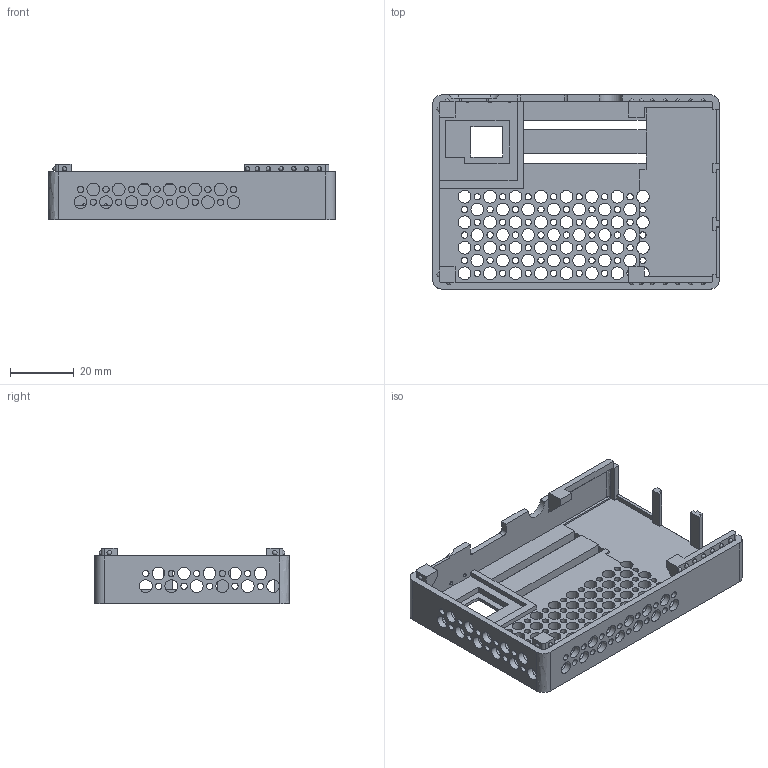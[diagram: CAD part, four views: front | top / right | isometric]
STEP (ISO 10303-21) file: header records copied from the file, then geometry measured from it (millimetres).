
FILE_DESCRIPTION(/* description */ (''),/* implementation_level */ '2;1');
FILE_NAME(/* name */ 'top',/* time_stamp */ '2018-12-30T13:34:37+00:00',/* author */ (''),/* organization */ (''),/* preprocessor_version */ 'ST-DEVELOPER v16.5',/* originating_system */ '',/* authorisation */ '');
FILE_SCHEMA (('AUTOMOTIVE_DESIGN'));
Length unit declared in the file: millimetre
Products named in the file (1): Document
Bounding box: 90 x 61 x 17.4 mm (x, y, z)
Volume: 17730.6 mm3; surface area: 20158.9 mm2
Topology: 1 solids, 1 shells, 328 faces, 1006 edges, 613 vertices
Faces by surface type: bspline 214, plane 114
Entity records: 15505 total; most frequent: CARTESIAN_POINT 9777, ORIENTED_EDGE 1856, EDGE_CURVE 928, EDGE_LOOP 649, VERTEX_POINT 613, B_SPLINE_CURVE_WITH_KNOTS 344, ADVANCED_FACE 328, FACE_OUTER_BOUND 328
